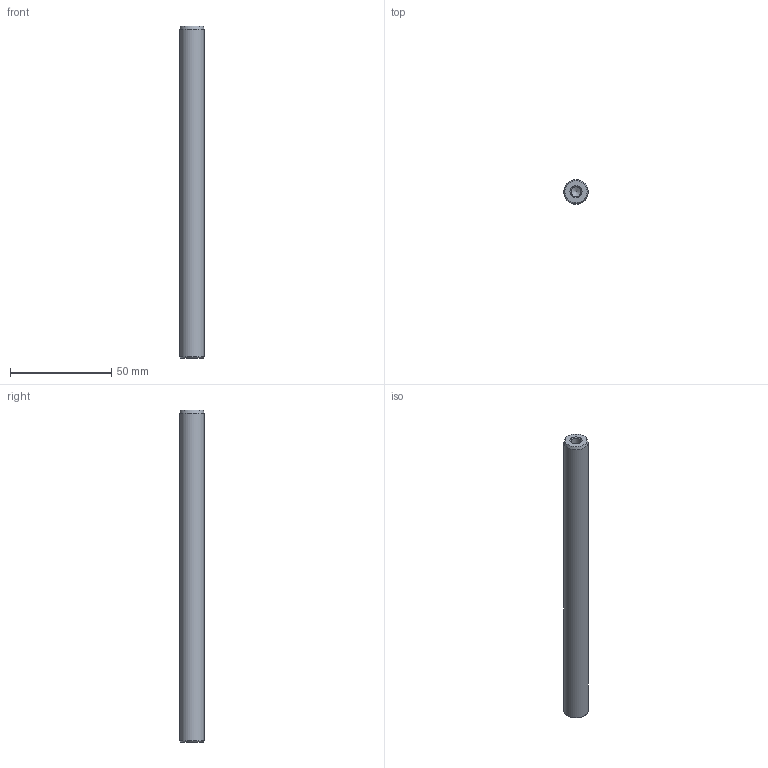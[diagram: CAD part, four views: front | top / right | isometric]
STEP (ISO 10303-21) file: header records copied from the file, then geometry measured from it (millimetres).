
FILE_DESCRIPTION( ( 'STEP AP214' ), '1' );
FILE_NAME( 'U:/Etudes/Top Solid/BIBLIO_Fournisseur/Colonnes UG/Ø12x164.step', '2005-01-11T13:28:07', ( ' ' ), ( ' ' ), 'XStep 1.0', ' ', ' ' );
FILE_SCHEMA( ( 'automotive_design' ) );
Length unit declared in the file: metre
Products named in the file (1): 1
Bounding box: 12 x 12 x 164 mm (x, y, z)
Volume: 18035.8 mm3; surface area: 6789.7 mm2
Topology: 1 solids, 1 shells, 13 faces, 27 edges, 16 vertices
Faces by surface type: cone 6, cylinder 5, plane 2
Full cylindrical faces by diameter (mm): 4.134 x2, 4.918 x2, 12 x1
Entity records: 382 total; most frequent: DIRECTION 52, CARTESIAN_POINT 40, AXIS2_PLACEMENT_3D 26, EDGE_LOOP 24, ORIENTED_EDGE 24, FACE_OUTER_BOUND 18, VERTEX_POINT 14, STYLED_ITEM 13
